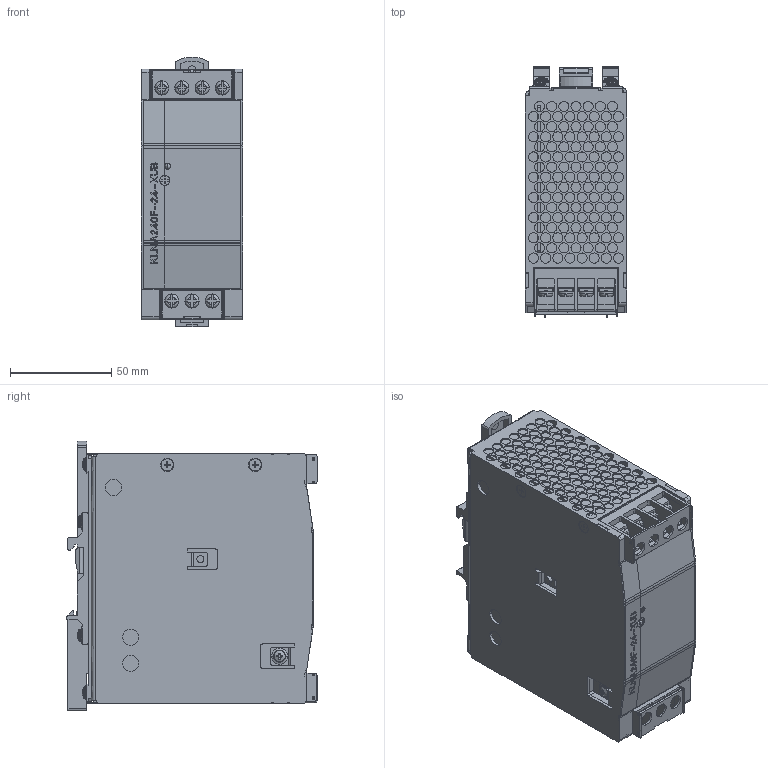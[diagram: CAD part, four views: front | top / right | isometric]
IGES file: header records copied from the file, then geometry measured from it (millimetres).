
Start section: Elysium IGES Interface
Global section: file name: 69HY:\data\KHA\3D\KLNA-XUB\DIN取付金具変更_2061121\klna240f-xub(igs).igs; native system: CoCreate Modeling 17.0  01-Apr-2010; preprocessor: CoCreate IGES_3D V2.2; author: Unknown; organization: Unknown; date: 20161130.155540; units: millimetre
Bounding box: 50 x 123.7 x 133.45 mm (x, y, z)
Volume: 652377.8 mm3; surface area: 102129.8 mm2
Topology: 1 solids, 40 shells, 4233 faces, 12074 edges, 7812 vertices
Faces by surface type: bspline 4233
